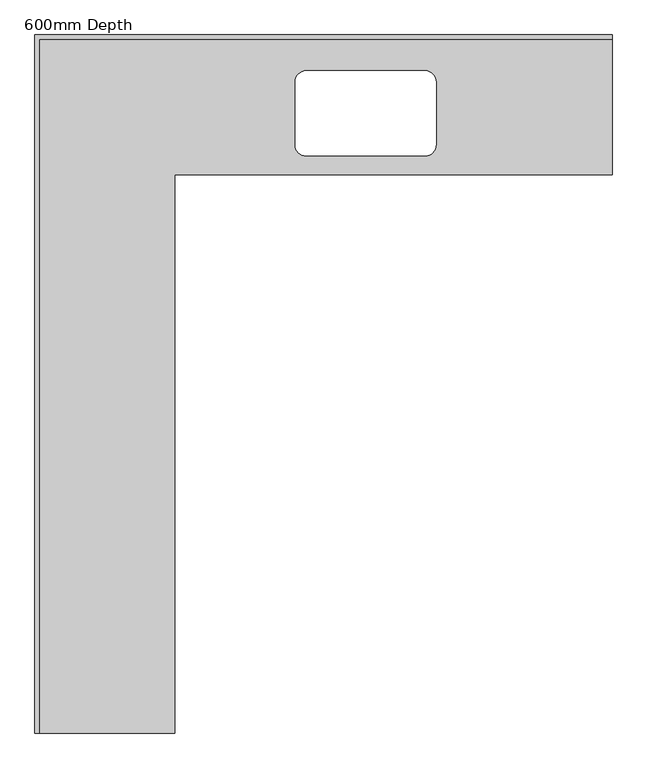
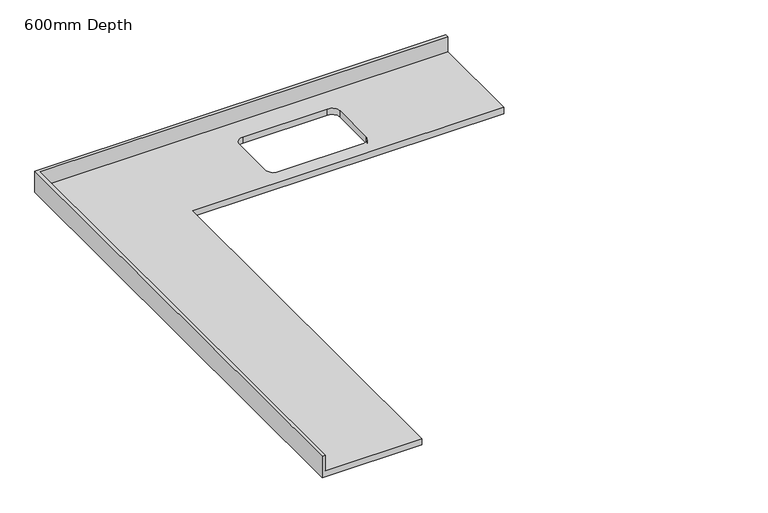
"""IFC4 building model written with IfcOpenShell, lengths in millimetres: furniture geometry, Counter Top-L Shaped w Sink (NZ) : 600mm Depth."""

from ifc_helpers import new_model, si_unit, frame, origin, place, context, project, spatial, polyline, circle_curve, source, transform, mapped, element, save
from ifc_brep_helpers import plane_surface, revolved_surface, advanced_brep


def furniture_600mm_depth_4546873e(model_context):
    return source(origin(), model_context, "Body", "AdvancedBrep", [
        advanced_brep(
        [(-575.4622951, -3115.1634291, 900.0), (-575.4622951, -625.0, 900.0), (1374.5377049, -625.0, 900.0), (1374.5377049, -19.05, 900.0), (-1181.4122951, -19.05, 900.0), (-1181.4122951, -3115.1634291, 900.0), (539.5377049, -160.0, 900.0), (589.5377049, -210.0, 900.0), (589.5377049, -490.0, 900.0), (539.5377049, -540.0, 900.0), (10.1940594, -540.0, 900.0), (-39.8059406, -490.0, 900.0), (-39.8059406, -210.0, 900.0), (10.1940594, -160.0, 900.0), (1374.5377049, 0.0, 860.0), (1374.5377049, -625.0, 860.0), (-575.4622951, -625.0, 860.0), (-575.4622951, -3115.1634291, 860.0), (-1200.4622951, -3115.1634291, 860.0), (-1200.4622951, 0.0, 860.0), (539.5377049, -160.0, 860.0), (10.1940594, -160.0, 860.0), (-39.8059406, -210.0, 860.0), (-39.8059406, -490.0, 860.0), (10.1940594, -540.0, 860.0), (539.5377049, -540.0, 860.0), (589.5377049, -490.0, 860.0), (589.5377049, -210.0, 860.0), (-1200.4622951, 0.0, 1001.6), (1374.5377049, 0.0, 1001.6), (-1200.4622951, -3115.1634291, 1001.6), (-1181.4122951, -3115.1634291, 1001.6), (1374.5377049, -19.05, 1001.6), (-1181.4122951, -19.05, 1001.6)],
        [
            (0, 1),
            (1, 2),
            (2, 3),
            (3, 4),
            (4, 5),
            (5, 0),
            (6, 7, circle_curve(frame((539.5377049, -210.0, 900.0), z_axis=(0.0, 0.0, -1.0), x_axis=(1.0, 0.0, 0.0)), 50.0)),
            (7, 8),
            (8, 9, circle_curve(frame((539.5377049, -490.0, 900.0), z_axis=(0.0, 0.0, -1.0), x_axis=(1.0, 0.0, 0.0)), 50.0)),
            (9, 10),
            (10, 11, circle_curve(frame((10.1940594, -490.0, 900.0), z_axis=(0.0, 0.0, -1.0), x_axis=(1.0, 0.0, 0.0)), 50.0)),
            (11, 12),
            (12, 13, circle_curve(frame((10.1940594, -210.0, 900.0), z_axis=(0.0, 0.0, -1.0), x_axis=(1.0, 0.0, 0.0)), 50.0)),
            (13, 6),
            (14, 15),
            (15, 16),
            (16, 17),
            (17, 18),
            (18, 19),
            (19, 14),
            (20, 21),
            (21, 22, circle_curve(frame((10.1940594, -210.0, 860.0), z_axis=(0.0, 0.0, 1.0), x_axis=(1.0, 0.0, 0.0)), 50.0)),
            (22, 23),
            (23, 24, circle_curve(frame((10.1940594, -490.0, 860.0), z_axis=(0.0, 0.0, 1.0), x_axis=(1.0, 0.0, 0.0)), 50.0)),
            (24, 25),
            (25, 26, circle_curve(frame((539.5377049, -490.0, 860.0), z_axis=(0.0, 0.0, 1.0), x_axis=(1.0, 0.0, 0.0)), 50.0)),
            (26, 27),
            (27, 20, circle_curve(frame((539.5377049, -210.0, 860.0), z_axis=(0.0, 0.0, 1.0), x_axis=(1.0, 0.0, 0.0)), 50.0)),
            (19, 28),
            (28, 29),
            (29, 14),
            (18, 30),
            (30, 28),
            (17, 0),
            (5, 31),
            (31, 30),
            (16, 1),
            (15, 2),
            (29, 32),
            (32, 3),
            (6, 20),
            (27, 7),
            (26, 8),
            (25, 9),
            (24, 10),
            (23, 11),
            (22, 12),
            (21, 13),
            (31, 33),
            (33, 32),
            (33, 4),
        ],
        [
            plane_surface(frame((-1200.4622951, 0.0, 900.0), z_axis=(0.0, 0.0, 1.0), x_axis=(-1.0, 0.0, 0.0))),
            plane_surface(frame((-1200.4622951, 0.0, 860.0), z_axis=(0.0, 0.0, -1.0), x_axis=(1.0, 0.0, 0.0))),
            plane_surface(frame((1374.5377049, 0.0, 900.0), z_axis=(0.0, 1.0, 0.0), x_axis=(0.0, 0.0, -1.0))),
            plane_surface(frame((-1200.4622951, 0.0, 900.0), z_axis=(-1.0, 0.0, 0.0), x_axis=(0.0, 0.0, -1.0))),
            plane_surface(frame((-1200.4622951, -3115.1634291, 900.0), z_axis=(0.0, -1.0, 0.0), x_axis=(0.0, 0.0, -1.0))),
            plane_surface(frame((-575.4622951, -3115.1634291, 900.0), z_axis=(1.0, 0.0, 0.0), x_axis=(0.0, 0.0, -1.0))),
            plane_surface(frame((-575.4622951, -625.0, 900.0), z_axis=(0.0, -1.0, 0.0), x_axis=(0.0, 0.0, -1.0))),
            plane_surface(frame((1374.5377049, -625.0, 900.0), z_axis=(1.0, 0.0, 0.0), x_axis=(0.0, 0.0, -1.0))),
            revolved_surface(polyline([(589.5377049, -210.0, 860.0), (589.5377049, -210.0, 900.0)]), (539.5377049, -210.0, 0.0), (0.0, 0.0, -1.0)),
            plane_surface(frame((589.5377049, -210.0, 900.0), z_axis=(-1.0, 0.0, 0.0), x_axis=(0.0, 0.0, -1.0))),
            revolved_surface(polyline([(589.5377049, -490.0, 860.0), (589.5377049, -490.0, 900.0)]), (539.5377049, -490.0, 0.0), (0.0, 0.0, -1.0)),
            plane_surface(frame((539.5377049, -540.0, 900.0), z_axis=(0.0, 1.0, 0.0), x_axis=(0.0, 0.0, -1.0))),
            revolved_surface(polyline([(60.1940594, -490.0, 860.0), (60.1940594, -490.0, 900.0)]), (10.1940594, -490.0, 0.0), (0.0, 0.0, -1.0)),
            plane_surface(frame((-39.8059406, -490.0, 900.0), z_axis=(1.0, 0.0, 0.0), x_axis=(0.0, 0.0, -1.0))),
            revolved_surface(polyline([(60.1940594, -210.0, 860.0), (60.1940594, -210.0, 900.0)]), (10.1940594, -210.0, 0.0), (0.0, 0.0, -1.0)),
            plane_surface(frame((10.1940594, -160.0, 900.0), z_axis=(0.0, -1.0, 0.0), x_axis=(0.0, 0.0, -1.0))),
            plane_surface(frame((-1200.4622951, 0.0, 1001.6), z_axis=(0.0, 0.0, 1.0), x_axis=(0.0, -1.0, 0.0))),
            plane_surface(frame((-1200.4622951, -19.05, 1001.6), z_axis=(0.0, -1.0, 0.0), x_axis=(0.0, 0.0, -1.0))),
            plane_surface(frame((-1181.4122951, -3115.1634291, 1001.6), z_axis=(1.0, 0.0, 0.0), x_axis=(0.0, 0.0, -1.0))),
        ],
        [
            (0, [[1, 2, 3, 4, 5, 6], [7, 8, 9, 10, 11, 12, 13, 14]]),
            (1, [[15, 16, 17, 18, 19, 20], [21, 22, 23, 24, 25, 26, 27, 28]]),
            (2, [[-20, 29, 30, 31]]),
            (3, [[-19, 32, 33, -29]]),
            (4, [[-32, -18, 34, -6, 35, 36]]),
            (5, [[-1, -34, -17, 37]]),
            (6, [[-2, -37, -16, 38]]),
            (7, [[-15, -31, 39, 40, -3, -38]]),
            (8, [[-7, 41, -28, 42]]),
            (9, [[-8, -42, -27, 43]]),
            (10, [[-9, -43, -26, 44]]),
            (11, [[-10, -44, -25, 45]]),
            (12, [[-11, -45, -24, 46]]),
            (13, [[-12, -46, -23, 47]]),
            (14, [[-13, -47, -22, 48]]),
            (15, [[-14, -48, -21, -41]]),
            (16, [[-33, -36, 49, 50, -39, -30]]),
            (17, [[-40, -50, 51, -4]]),
            (18, [[-49, -35, -5, -51]]),
        ],
    ),
    ])


if __name__ == "__main__":
    model = new_model("IFC4")
    model_context = context("Model", 3, world=origin())
    ifc_project = project(units=[si_unit("LENGTHUNIT", "METRE", prefix="MILLI")], contexts=[model_context])
    site = spatial("IfcSite", under=ifc_project)
    building = spatial("IfcBuilding", under=site)
    placement = place(None, origin())
    furniture_600mm_depth_shape = furniture_600mm_depth_4546873e(model_context)
    element("IfcFurniture", 1, ObjectType="Counter Top-L Shaped w Sink (NZ) : 600mm Depth", at=placement, inside=building, context=model_context, shape_type="MappedRepresentation", body=[
        mapped(furniture_600mm_depth_shape, transform((0.0, 0.0, 0.0), x_axis=(1.0, 0.0, 0.0), y_axis=(0.0, 1.0, 0.0), z_axis=(0.0, 0.0, 1.0))),
    ])
    save(model, "model.ifc")
